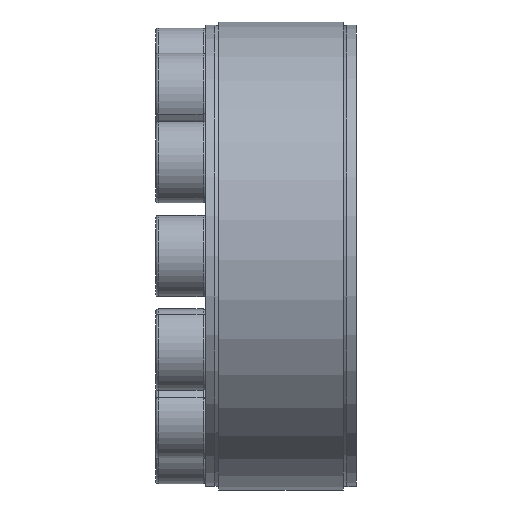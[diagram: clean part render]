
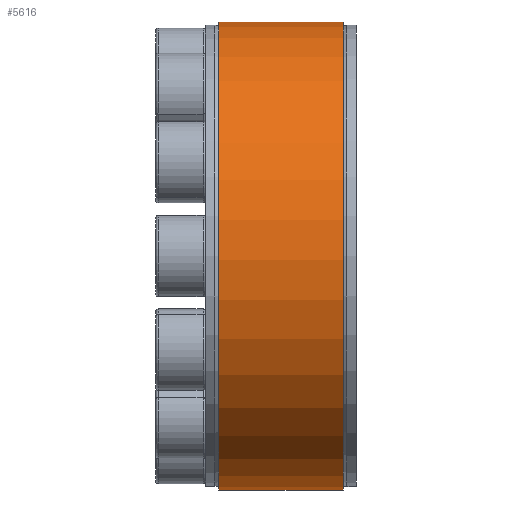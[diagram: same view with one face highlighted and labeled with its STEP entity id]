
A CAD part, front view. The second image highlights one B-rep face of the part: STEP entity #5616.
In plain terms, the highlighted cylindrical face has radius 37.5 mm (diameter 75 mm), a partial arc.
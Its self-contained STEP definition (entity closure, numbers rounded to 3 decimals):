
#46 = EDGE_CURVE ( 'NONE', #7505, #545, #2497, .T. ) ;
#209 = LINE ( 'NONE', #8861, #320 ) ;
#320 = VECTOR ( 'NONE', #8846, 1000. ) ;
#545 = VERTEX_POINT ( 'NONE', #3137 ) ;
#627 = CARTESIAN_POINT ( 'NONE',  ( 10., 0.459, 37.479 ) ) ;
#700 = DIRECTION ( 'NONE',  ( -1., 0., 0. ) ) ;
#767 = DIRECTION ( 'NONE',  ( 0., 0., 1. ) ) ;
#802 = CARTESIAN_POINT ( 'NONE',  ( -10., -0.791, 0. ) ) ;
#976 = EDGE_LOOP ( 'NONE', ( #9042, #7475, #8300, #4890 ) ) ;
#1699 = CYLINDRICAL_SURFACE ( 'NONE', #7317, 37.5 ) ;
#1843 = DIRECTION ( 'NONE',  ( 0., 0., 1. ) ) ;
#1867 = DIRECTION ( 'NONE',  ( -1., 0., 0. ) ) ;
#1877 = CARTESIAN_POINT ( 'NONE',  ( 10., -0.791, 0. ) ) ;
#1882 = EDGE_CURVE ( 'NONE', #5517, #545, #209, .T. ) ;
#2166 = EDGE_CURVE ( 'NONE', #7505, #7064, #8248, .T. ) ;
#2497 = CIRCLE ( 'NONE', #2590, 37.5 ) ;
#2590 = AXIS2_PLACEMENT_3D ( 'NONE', #802, #700, #767 ) ;
#3137 = CARTESIAN_POINT ( 'NONE',  ( -10., -2.041, 37.479 ) ) ;
#3217 = CARTESIAN_POINT ( 'NONE',  ( -10., 0.459, 37.479 ) ) ;
#3284 = EDGE_CURVE ( 'NONE', #7064, #5517, #4954, .T. ) ;
#3566 = FACE_OUTER_BOUND ( 'NONE', #976, .T. ) ;
#3995 = AXIS2_PLACEMENT_3D ( 'NONE', #1877, #1867, #1843 ) ;
#4107 = DIRECTION ( 'NONE',  ( -1., 0., 0. ) ) ;
#4234 = DIRECTION ( 'NONE',  ( 0., 0., 1. ) ) ;
#4545 = VECTOR ( 'NONE', #7221, 1000. ) ;
#4890 = ORIENTED_EDGE ( 'NONE', *, *, #1882, .T. ) ;
#4954 = CIRCLE ( 'NONE', #3995, 37.5 ) ;
#5009 = CARTESIAN_POINT ( 'NONE',  ( -13.426, -0.791, 0. ) ) ;
#5517 = VERTEX_POINT ( 'NONE', #6493 ) ;
#5616 = ADVANCED_FACE ( 'NONE', ( #3566 ), #1699, .T. ) ;
#6493 = CARTESIAN_POINT ( 'NONE',  ( 10., -2.041, 37.479 ) ) ;
#7064 = VERTEX_POINT ( 'NONE', #627 ) ;
#7221 = DIRECTION ( 'NONE',  ( 1., 0., 0. ) ) ;
#7232 = CARTESIAN_POINT ( 'NONE',  ( -13.426, 0.459, 37.479 ) ) ;
#7317 = AXIS2_PLACEMENT_3D ( 'NONE', #5009, #4107, #4234 ) ;
#7475 = ORIENTED_EDGE ( 'NONE', *, *, #2166, .T. ) ;
#7505 = VERTEX_POINT ( 'NONE', #3217 ) ;
#8248 = LINE ( 'NONE', #7232, #4545 ) ;
#8300 = ORIENTED_EDGE ( 'NONE', *, *, #3284, .T. ) ;
#8846 = DIRECTION ( 'NONE',  ( -1., 0., 0. ) ) ;
#8861 = CARTESIAN_POINT ( 'NONE',  ( -13.426, -2.041, 37.479 ) ) ;
#9042 = ORIENTED_EDGE ( 'NONE', *, *, #46, .F. ) ;
